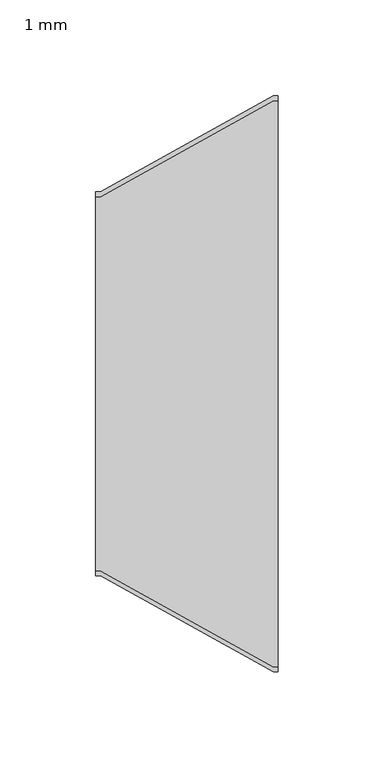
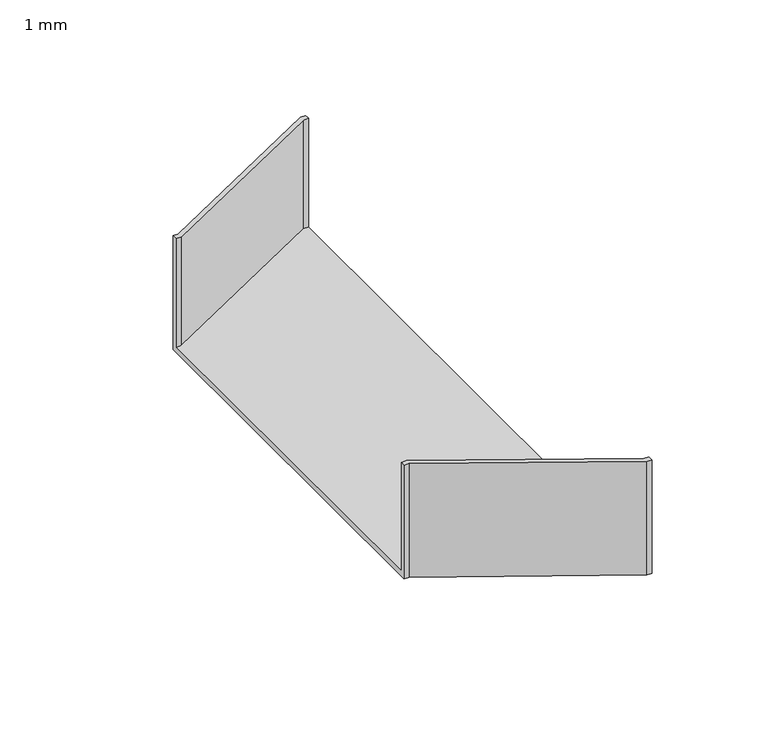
"""IFC4 building model written with IfcOpenShell, lengths in millimetres: cable carrier fitting geometry, BAKS_Redukcja E90 : 1 mm."""

from ifc_helpers import new_model, si_unit, origin, place, context, project, spatial, faceted_brep, source, transform, mapped, element, save


def cable_carrier_fitting_1_mm_805de479(model_context):
    return source(origin(), model_context, "Body", "Brep", [
        faceted_brep([(0.0, -100.0, -30.0), (0.0, -100.0, 30.0), (0.0, -97.46, 30.0), (0.0, -97.46, -27.46), (0.0, 97.46, -27.46), (0.0, 97.46, 30.0), (0.0, 100.0, 30.0), (0.0, 100.0, -30.0), (95.0, -150.0, -30.0), (95.0, 150.0, -30.0), (95.0, 150.0, 30.0), (95.0, 147.46, 30.0), (95.0, 147.46, -27.46), (95.0, -147.46, -27.46), (95.0, -147.46, 30.0), (95.0, -150.0, 30.0), (2.5, -100.0, -30.0), (2.5, -100.0, 30.0), (92.5, -150.0, 30.0), (92.5, -147.46, 30.0), (2.5, -97.46, 30.0), (2.5, -97.46, -27.46), (92.5, -147.46, -27.46), (92.5, 147.46, -27.46), (2.5, 97.46, -27.46), (2.5, 97.46, 30.0), (92.5, 147.46, 30.0), (92.5, 150.0, 30.0), (2.5, 100.0, 30.0), (2.5, 100.0, -30.0), (92.5, 150.0, -30.0), (92.5, -150.0, -30.0)], [[[0, 1, 2, 3, 4, 5, 6, 7]], [[8, 9, 10, 11, 12, 13, 14, 15]], [[1, 0, 16, 17]], [[2, 1, 17, 18, 15, 14, 19, 20]], [[3, 2, 20, 21]], [[4, 3, 21, 22, 13, 12, 23, 24]], [[5, 4, 24, 25]], [[6, 5, 25, 26, 11, 10, 27, 28]], [[7, 6, 28, 29]], [[0, 7, 29, 30, 9, 8, 31, 16]], [[8, 15, 18, 31]], [[14, 13, 22, 19]], [[12, 11, 26, 23]], [[10, 9, 30, 27]], [[30, 29, 28, 27]], [[26, 25, 24, 23]], [[22, 21, 20, 19]], [[16, 31, 18, 17]]]),
    ])


if __name__ == "__main__":
    model = new_model("IFC4")
    model_context = context("Model", 3, world=origin())
    ifc_project = project(units=[si_unit("LENGTHUNIT", "METRE", prefix="MILLI")], contexts=[model_context])
    site = spatial("IfcSite", under=ifc_project)
    building = spatial("IfcBuilding", under=site)
    placement = place(None, origin())
    cable_carrier_fitting_1_mm_shape = cable_carrier_fitting_1_mm_805de479(model_context)
    element("IfcCableCarrierFitting", 1, ObjectType="BAKS_Redukcja E90 : 1 mm", at=placement, inside=building, context=model_context, shape_type="MappedRepresentation", body=[
        mapped(cable_carrier_fitting_1_mm_shape, transform((0.0, 0.0, 0.0), x_axis=(1.0, 0.0, 0.0), y_axis=(0.0, 1.0, 0.0), z_axis=(0.0, 0.0, 1.0))),
    ])
    save(model, "model.ifc")
